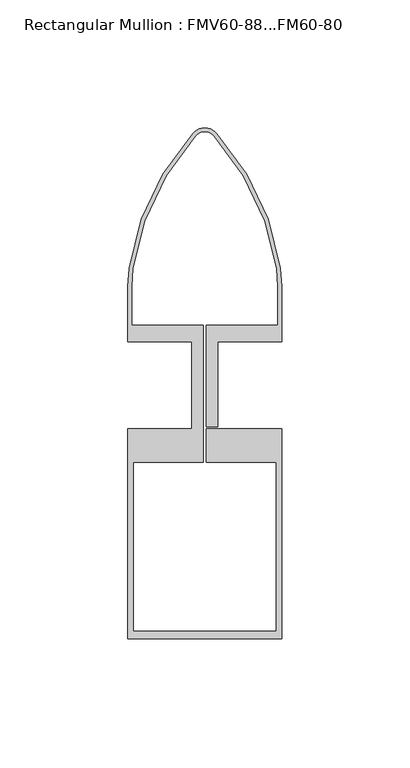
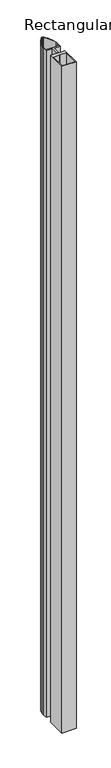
"""IFC4 building model written with IfcOpenShell, lengths in millimetres: member geometry, Rectangular Mullion : FMV60-88...FM60-80."""

from ifc_helpers import new_model, si_unit, frame, origin, place, context, project, spatial, polyline, circle_curve, source, transform, mapped, element, save
from ifc_brep_helpers import plane_surface, cylinder_surface, revolved_surface, advanced_brep


def rectangular_mullion_fmv60_88_fm60_80_51c820f4(model_context):
    return source(origin(), model_context, "Body", "AdvancedBrep", [
        advanced_brep(
        [(28.0754927, 45.6327241, 0.0), (28.6, 38.5118393, 0.0), (28.6000412, 23.4439081, 0.0), (0.5, 23.4439081, 0.0), (0.5, -16.2, 0.0), (5.0004903, -16.2, 0.0), (5.0004903, 17.0, 0.0), (30.0, 17.0, 0.0), (30.0, 38.5118393, 0.0), (29.4612692, 45.8318697, 0.0), (4.7233463, 98.2488206, 0.0), (0.0, 100.5488206, 0.0), (-4.7233463, 98.2488206, 0.0), (-29.4612692, 45.8318697, 0.0), (-30.0, 38.5118393, 0.0), (-30.0, 17.0, 0.0), (-4.9995097, 17.0, 0.0), (-4.9995097, -17.0, 0.0), (-30.0, -17.0, 0.0), (-30.0, -98.9990577, 0.0), (30.0, -98.9990577, 0.0), (30.0, -17.0, 0.0), (0.5, -17.0, 0.0), (0.5, -29.9945799, 0.0), (28.0, -29.9945799, 0.0), (28.0, -95.9990577, 0.0), (-28.0, -95.9990577, 0.0), (-28.0, -29.9945799, 0.0), (-0.5, -29.9945799, 0.0), (-0.5, 23.4439081, 0.0), (-28.6, 23.4439081, 0.0), (-28.6, 38.5118393, 0.0), (-28.0754927, 45.6327241, 0.0), (-3.6212321, 97.3854872, 0.0), (0.0, 99.1488206, 0.0), (3.6212321, 97.3854872, 0.0), (28.0763537, 45.6269089, -3000.0), (3.6212321, 97.3854872, -3000.0), (0.0, 99.1488206, -3000.0), (-3.6212321, 97.3854872, -3000.0), (-28.0763537, 45.6269089, -3000.0), (-28.6, 38.5118393, -3000.0), (-28.6, 23.4439081, -3000.0), (-0.5, 23.4439081, -3000.0), (-0.5, -29.9945799, -3000.0), (-28.0, -29.9945799, -3000.0), (-28.0, -95.9990577, -3000.0), (28.0, -95.9990577, -3000.0), (28.0, -29.9945799, -3000.0), (0.5, -29.9945799, -3000.0), (0.5, -17.0, -3000.0), (30.0, -17.0, -3000.0), (30.0, -98.9990577, -3000.0), (-30.0, -98.9990577, -3000.0), (-30.0, -17.0, -3000.0), (-4.9995097, -17.0, -3000.0), (-4.9995097, 17.0, -3000.0), (-30.0, 17.0, -3000.0), (-30.0, 38.5118393, -3000.0), (-29.4612692, 45.8318697, -3000.0), (-4.7233463, 98.2488206, -3000.0), (0.0, 100.5488206, -3000.0), (4.7233463, 98.2488206, -3000.0), (29.4612692, 45.8318697, -3000.0), (30.0, 38.5118393, -3000.0), (30.0, 17.0, -3000.0), (5.0004903, 17.0, -3000.0), (5.0004903, -16.2, -3000.0), (0.5, -16.2, -3000.0), (0.5, 23.4439081, -3000.0), (28.6000412, 23.4439081, -3000.0), (28.6000412, 38.5118393, -3000.0)],
        [
            (0, 1, circle_curve(frame((-20.0, 38.5118393, 0.0), z_axis=(0.0, 0.0, -1.0), x_axis=(1.0, 0.0, 0.0)), 48.6)),
            (1, 2),
            (2, 3),
            (3, 4),
            (4, 5),
            (5, 6),
            (6, 7),
            (7, 8),
            (8, 9, circle_curve(frame((-20.0, 38.5118393, 0.0), z_axis=(0.0, 0.0, 1.0), x_axis=(0.9892253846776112, 0.1464006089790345, 0.0)), 50.0)),
            (9, 10, circle_curve(frame((-69.4612692, 31.1918088, 0.0), z_axis=(0.0, 0.0, 1.0), x_axis=(0.7418461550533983, 0.6705701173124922, 0.0)), 100.0)),
            (10, 11, circle_curve(frame((0.0, 94.5488206, 0.0), z_axis=(0.0, 0.0, 1.0), x_axis=(2.2091217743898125e-12, 1.0, 0.0)), 6.0)),
            (11, 12, circle_curve(frame((0.0, 94.5488206, 0.0), z_axis=(0.0, 0.0, 1.0), x_axis=(-0.7872243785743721, 0.616666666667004, 0.0)), 6.0)),
            (12, 13, circle_curve(frame((69.4612692, 31.1918088, 0.0), z_axis=(0.0, 0.0, 1.0), x_axis=(-0.9892253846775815, 0.14640060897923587, 0.0)), 100.0)),
            (13, 14, circle_curve(frame((20.0, 38.5118393, 0.0), z_axis=(0.0, 0.0, 1.0), x_axis=(-1.0, 0.0, 0.0)), 50.0)),
            (14, 15),
            (15, 16),
            (16, 17),
            (17, 18),
            (18, 19),
            (19, 20),
            (20, 21),
            (21, 22),
            (22, 23),
            (23, 24),
            (24, 25),
            (25, 26),
            (26, 27),
            (27, 28),
            (28, 29),
            (29, 30),
            (30, 31),
            (31, 32, circle_curve(frame((20.0, 38.5118393, 0.0), z_axis=(0.0, 0.0, -1.0), x_axis=(-0.9892253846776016, 0.14640060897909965, 0.0)), 48.6)),
            (32, 33, circle_curve(frame((69.5008187, 31.1798368, 0.0), z_axis=(0.0, 0.0, -1.0), x_axis=(-0.7412956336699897, 0.6711786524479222, 0.0)), 98.6408763)),
            (33, 34, circle_curve(frame((0.0, 94.5488206, 0.0), z_axis=(0.0, 0.0, -1.0), x_axis=(0.0, 1.0, 0.0)), 4.6)),
            (34, 35, circle_curve(frame((0.0, 94.5488206, 0.0), z_axis=(0.0, 0.0, -1.0), x_axis=(0.7872243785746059, 0.6166666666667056, 0.0)), 4.6)),
            (35, 0, circle_curve(frame((-69.5008187, 31.1798368, 0.0), z_axis=(0.0, 0.0, -1.0), x_axis=(0.989216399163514, 0.1464613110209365, 0.0)), 98.6408763)),
            (36, 37, circle_curve(frame((-69.5008187, 31.1798368, -3000.0), z_axis=(0.0, 0.0, 1.0), x_axis=(0.989216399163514, 0.1464613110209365, 0.0)), 98.6408763)),
            (37, 38, circle_curve(frame((0.0, 94.5488206, -3000.0), z_axis=(0.0, 0.0, 1.0), x_axis=(0.7872243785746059, 0.6166666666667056, 0.0)), 4.6)),
            (38, 39, circle_curve(frame((0.0, 94.5488206, -3000.0), z_axis=(0.0, 0.0, 1.0), x_axis=(0.0, 1.0, 0.0)), 4.6)),
            (39, 40, circle_curve(frame((69.5008187, 31.1798368, -3000.0), z_axis=(0.0, 0.0, 1.0), x_axis=(-0.7412956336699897, 0.6711786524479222, 0.0)), 98.6408763)),
            (40, 41, circle_curve(frame((20.0, 38.5118393, -3000.0), z_axis=(0.0, 0.0, 1.0), x_axis=(-0.9892253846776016, 0.14640060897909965, 0.0)), 48.6)),
            (41, 42),
            (42, 43),
            (43, 44),
            (44, 45),
            (45, 46),
            (46, 47),
            (47, 48),
            (48, 49),
            (49, 50),
            (50, 51),
            (51, 52),
            (52, 53),
            (53, 54),
            (54, 55),
            (55, 56),
            (56, 57),
            (57, 58),
            (58, 59, circle_curve(frame((20.0, 38.5118393, -3000.0), z_axis=(0.0, 0.0, -1.0), x_axis=(-1.0, 0.0, 0.0)), 50.0)),
            (59, 60, circle_curve(frame((69.4612692, 31.1918088, -3000.0), z_axis=(0.0, 0.0, -1.0), x_axis=(-0.9892253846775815, 0.14640060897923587, 0.0)), 100.0)),
            (60, 61, circle_curve(frame((0.0, 94.5488206, -3000.0), z_axis=(0.0, 0.0, -1.0), x_axis=(-0.7872243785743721, 0.616666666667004, 0.0)), 6.0)),
            (61, 62, circle_curve(frame((0.0, 94.5488206, -3000.0), z_axis=(0.0, 0.0, -1.0), x_axis=(2.2091217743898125e-12, 1.0, 0.0)), 6.0)),
            (62, 63, circle_curve(frame((-69.4612692, 31.1918088, -3000.0), z_axis=(0.0, 0.0, -1.0), x_axis=(0.7418461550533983, 0.6705701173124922, 0.0)), 100.0)),
            (63, 64, circle_curve(frame((-20.0, 38.5118393, -3000.0), z_axis=(0.0, 0.0, -1.0), x_axis=(0.9892253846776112, 0.1464006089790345, 0.0)), 50.0)),
            (64, 65),
            (65, 66),
            (66, 67),
            (67, 68),
            (68, 69),
            (69, 70),
            (70, 71),
            (71, 36, circle_curve(frame((-20.0, 38.5118393, -3000.0), z_axis=(0.0, 0.0, 1.0), x_axis=(1.0, 0.0, 0.0)), 48.6)),
            (0, 36),
            (71, 1),
            (70, 2),
            (69, 3),
            (68, 4),
            (67, 5),
            (66, 6),
            (65, 7),
            (64, 8),
            (63, 9),
            (62, 10),
            (61, 11),
            (60, 12),
            (59, 13),
            (58, 14),
            (57, 15),
            (56, 16),
            (55, 17),
            (54, 18),
            (53, 19),
            (52, 20),
            (51, 21),
            (50, 22),
            (49, 23),
            (48, 24),
            (47, 25),
            (46, 26),
            (45, 27),
            (44, 28),
            (43, 29),
            (42, 30),
            (41, 31),
            (40, 32),
            (39, 33),
            (38, 34),
            (37, 35),
        ],
        [
            plane_surface(frame((0.0, -103.4447361, 0.0), z_axis=(0.0, 0.0, 1.0), x_axis=(-1.0, 0.0, 0.0))),
            plane_surface(frame((0.0, -103.4447361, -3000.0), z_axis=(0.0, 0.0, -1.0), x_axis=(-1.0, 0.0, 0.0))),
            revolved_surface(polyline([(28.6, 38.5118393, -3000.0), (28.6, 38.5118393, 0.0)]), (-20.0, 38.5118393, 0.0), (0.0, 0.0, -1.0)),
            plane_surface(frame((28.6000412, 38.5118393, 0.0), z_axis=(-1.0, 0.0, 0.0), x_axis=(0.0, 0.0, -1.0))),
            plane_surface(frame((28.6000412, 23.4439081, 0.0), z_axis=(0.0, 1.0, 0.0), x_axis=(0.0, 0.0, -1.0))),
            plane_surface(frame((0.5, 23.4439081, 0.0), z_axis=(-1.0, 0.0, 0.0), x_axis=(0.0, 0.0, -1.0))),
            plane_surface(frame((0.5, -16.2, 0.0), z_axis=(0.0, -1.0, 0.0), x_axis=(0.0, 0.0, -1.0))),
            plane_surface(frame((5.0004903, -16.2, 0.0), z_axis=(1.0, 0.0, 0.0), x_axis=(0.0, 0.0, -1.0))),
            plane_surface(frame((5.0004903, 17.0, 0.0), z_axis=(0.0, -1.0, 0.0), x_axis=(0.0, 0.0, -1.0))),
            plane_surface(frame((30.0, 17.0, 0.0), z_axis=(1.0, 0.0, 0.0), x_axis=(0.0, 0.0, -1.0))),
            cylinder_surface(frame((-20.0, 38.5118393, 0.0), z_axis=(0.0, 0.0, 1.0), x_axis=(0.9892253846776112, 0.1464006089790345, 0.0)), 50.0),
            cylinder_surface(frame((-69.4612692, 31.1918088, 0.0), z_axis=(0.0, 0.0, 1.0000000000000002), x_axis=(0.7418461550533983, 0.6705701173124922, 0.0)), 100.0),
            cylinder_surface(frame((0.0, 94.5488206, 0.0), z_axis=(0.0, 0.0, 1.0), x_axis=(2.2091217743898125e-12, 1.0, 0.0)), 6.0),
            cylinder_surface(frame((0.0, 94.5488206, 0.0), z_axis=(0.0, 0.0, 1.0), x_axis=(-0.7872243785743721, 0.616666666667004, 0.0)), 6.0),
            cylinder_surface(frame((69.4612692, 31.1918088, 0.0), z_axis=(0.0, 0.0, 1.0000000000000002), x_axis=(-0.9892253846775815, 0.14640060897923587, 0.0)), 100.0),
            cylinder_surface(frame((20.0, 38.5118393, 0.0), z_axis=(0.0, 0.0, 1.0), x_axis=(-1.0, 0.0, 0.0)), 50.0),
            plane_surface(frame((-30.0, 38.5118393, 0.0), z_axis=(-1.0, 0.0, 0.0), x_axis=(0.0, 0.0, -1.0))),
            plane_surface(frame((-30.0, 17.0, 0.0), z_axis=(0.0, -1.0, 0.0), x_axis=(0.0, 0.0, -1.0))),
            plane_surface(frame((-4.9995097, 17.0, 0.0), z_axis=(-1.0, 0.0, 0.0), x_axis=(0.0, 0.0, -1.0))),
            plane_surface(frame((-4.9995097, -17.0, 0.0), z_axis=(0.0, 1.0, 0.0), x_axis=(0.0, 0.0, -1.0))),
            plane_surface(frame((-30.0, -17.0, 0.0), z_axis=(-1.0, 0.0, 0.0), x_axis=(0.0, 0.0, -1.0))),
            plane_surface(frame((-30.0, -98.9990577, 0.0), z_axis=(0.0, -1.0, 0.0), x_axis=(0.0, 0.0, -1.0))),
            plane_surface(frame((30.0, -98.9990577, 0.0), z_axis=(1.0, 0.0, 0.0), x_axis=(0.0, 0.0, -1.0))),
            plane_surface(frame((30.0, -17.0, 0.0), z_axis=(0.0, 1.0, 0.0), x_axis=(0.0, 0.0, -1.0))),
            plane_surface(frame((0.5, -17.0, 0.0), z_axis=(-1.0, 0.0, 0.0), x_axis=(0.0, 0.0, -1.0))),
            plane_surface(frame((0.5, -29.9945799, 0.0), z_axis=(0.0, -1.0, 0.0), x_axis=(0.0, 0.0, -1.0))),
            plane_surface(frame((28.0, -29.9945799, 0.0), z_axis=(-1.0, 0.0, 0.0), x_axis=(0.0, 0.0, -1.0))),
            plane_surface(frame((28.0, -95.9990577, 0.0), z_axis=(0.0, 1.0, 0.0), x_axis=(0.0, 0.0, -1.0))),
            plane_surface(frame((-28.0, -95.9990577, 0.0), z_axis=(1.0, 0.0, 0.0), x_axis=(0.0, 0.0, -1.0))),
            plane_surface(frame((-28.0, -29.9945799, 0.0), z_axis=(0.0, -1.0, 0.0), x_axis=(0.0, 0.0, -1.0))),
            plane_surface(frame((-0.5, -29.9945799, 0.0), z_axis=(1.0, 0.0, 0.0), x_axis=(0.0, 0.0, -1.0))),
            plane_surface(frame((-0.5, 23.4439081, 0.0), z_axis=(0.0, 1.0, 0.0), x_axis=(0.0, 0.0, -1.0))),
            plane_surface(frame((-28.6, 23.4439081, 0.0), z_axis=(1.0, 0.0, 0.0), x_axis=(0.0, 0.0, -1.0))),
            revolved_surface(polyline([(-28.076353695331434, 45.62690889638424, -3000.0), (-28.076353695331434, 45.62690889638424, 0.0)]), (20.0, 38.5118393, 0.0), (0.0, 0.0, -1.0)),
            revolved_surface(polyline([(-3.6212322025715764, 97.38548723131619, -3000.000000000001), (-3.6212322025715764, 97.38548723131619, 0.0)]), (69.5008187, 31.1798368, 0.0), (0.0, 0.0, -1.0000000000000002)),
            revolved_surface(polyline([(0.0, 99.1488206, -3000.0), (0.0, 99.1488206, 0.0)]), (0.0, 94.5488206, 0.0), (0.0, 0.0, -1.0)),
            revolved_surface(polyline([(3.621232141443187, 97.38548726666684, -3000.000000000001), (3.621232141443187, 97.38548726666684, 0.0)]), (0.0, 94.5488206, 0.0), (0.0, 0.0, -1.0000000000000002)),
            revolved_surface(polyline([(28.07635376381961, 45.626908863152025, -3000.000000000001), (28.07635376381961, 45.626908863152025, 0.0)]), (-69.5008187, 31.1798368, 0.0), (0.0, 0.0, -1.0000000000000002)),
        ],
        [
            (0, [[1, 2, 3, 4, 5, 6, 7, 8, 9, 10, 11, 12, 13, 14, 15, 16, 17, 18, 19, 20, 21, 22, 23, 24, 25, 26, 27, 28, 29, 30, 31, 32, 33, 34, 35, 36]]),
            (1, [[37, 38, 39, 40, 41, 42, 43, 44, 45, 46, 47, 48, 49, 50, 51, 52, 53, 54, 55, 56, 57, 58, 59, 60, 61, 62, 63, 64, 65, 66, 67, 68, 69, 70, 71, 72]]),
            (2, [[-1, 73, -72, 74]]),
            (3, [[-2, -74, -71, 75]]),
            (4, [[-3, -75, -70, 76]]),
            (5, [[-4, -76, -69, 77]]),
            (6, [[-5, -77, -68, 78]]),
            (7, [[-6, -78, -67, 79]]),
            (8, [[-7, -79, -66, 80]]),
            (9, [[-8, -80, -65, 81]]),
            (10, [[-9, -81, -64, 82]]),
            (11, [[-10, -82, -63, 83]]),
            (12, [[-11, -83, -62, 84]]),
            (13, [[-12, -84, -61, 85]]),
            (14, [[-13, -85, -60, 86]]),
            (15, [[-14, -86, -59, 87]]),
            (16, [[-15, -87, -58, 88]]),
            (17, [[-16, -88, -57, 89]]),
            (18, [[-17, -89, -56, 90]]),
            (19, [[-18, -90, -55, 91]]),
            (20, [[-19, -91, -54, 92]]),
            (21, [[-20, -92, -53, 93]]),
            (22, [[-21, -93, -52, 94]]),
            (23, [[-22, -94, -51, 95]]),
            (24, [[-23, -95, -50, 96]]),
            (25, [[-24, -96, -49, 97]]),
            (26, [[-25, -97, -48, 98]]),
            (27, [[-26, -98, -47, 99]]),
            (28, [[-27, -99, -46, 100]]),
            (29, [[-28, -100, -45, 101]]),
            (30, [[-29, -101, -44, 102]]),
            (31, [[-30, -102, -43, 103]]),
            (32, [[-31, -103, -42, 104]]),
            (33, [[-32, -104, -41, 105]]),
            (34, [[-33, -105, -40, 106]]),
            (35, [[-34, -106, -39, 107]]),
            (36, [[-35, -107, -38, 108]]),
            (37, [[-36, -108, -37, -73]]),
        ],
    ),
    ])


if __name__ == "__main__":
    model = new_model("IFC4")
    model_context = context("Model", 3, world=origin())
    ifc_project = project(units=[si_unit("LENGTHUNIT", "METRE", prefix="MILLI")], contexts=[model_context])
    site = spatial("IfcSite", under=ifc_project)
    building = spatial("IfcBuilding", under=site)
    placement = place(None, origin())
    rectangular_mullion_fmv60_88_fm60_80_shape = rectangular_mullion_fmv60_88_fm60_80_51c820f4(model_context)
    element("IfcMember", 1, ObjectType="Rectangular Mullion : FMV60-88...FM60-80", at=placement, inside=building, context=model_context, shape_type="MappedRepresentation", body=[
        mapped(rectangular_mullion_fmv60_88_fm60_80_shape, transform((0.0, 0.0, 0.0), x_axis=(1.0, 0.0, 0.0), y_axis=(0.0, 1.0, 0.0), z_axis=(0.0, 0.0, 1.0))),
    ])
    save(model, "model.ifc")
